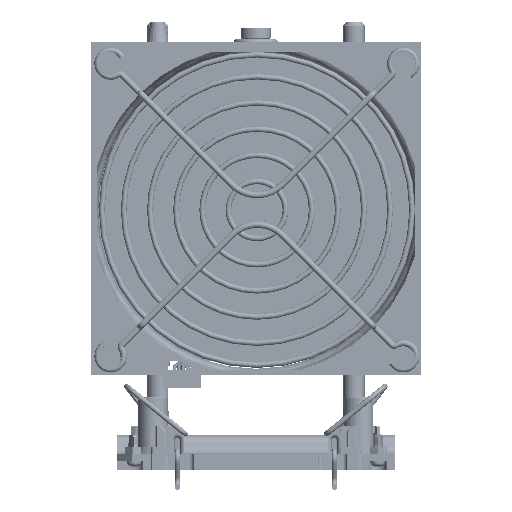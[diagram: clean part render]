
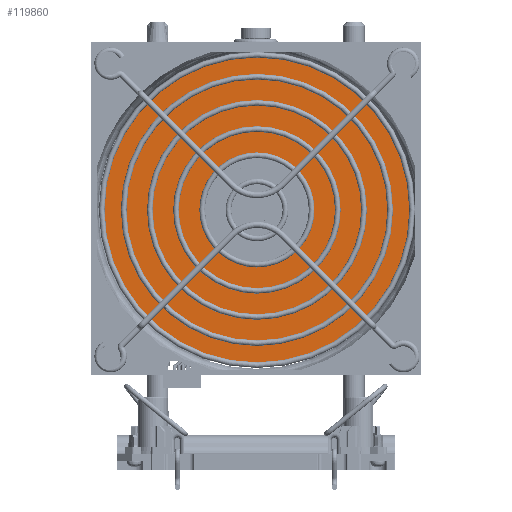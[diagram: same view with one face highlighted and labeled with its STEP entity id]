
A CAD part, front view. The second image highlights one B-rep face of the part: STEP entity #119860.
In plain terms, the highlighted planar face has unit normal (0, -1, 0) as drawn and (0, 0, 1) by its records, which use the part's own axes.
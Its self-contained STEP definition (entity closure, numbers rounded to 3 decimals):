
#119763=CARTESIAN_POINT('',(50.311,50.311,-1.9));
#119764=DIRECTION('',(0.,0.,1.));
#119765=DIRECTION('',(1.,0.,0.));
#119766=AXIS2_PLACEMENT_3D('',#119763,#119764,#119765);
#119768=CARTESIAN_POINT('',(50.311,50.311,-1.9));
#119769=DIRECTION('',(0.,0.,1.));
#119770=DIRECTION('',(-1.,0.,0.));
#119771=AXIS2_PLACEMENT_3D('',#119768,#119769,#119770);
#119773=CARTESIAN_POINT('',(93.561,50.311,-1.9));
#119774=CARTESIAN_POINT('',(7.061,50.311,-1.9));
#119775=VERTEX_POINT('',#119773);
#119776=VERTEX_POINT('',#119774);
#119851=CARTESIAN_POINT('',(50.311,50.311,-1.9));
#119852=DIRECTION('',(0.,0.,-1.));
#119853=DIRECTION('',(-1.,0.,0.));
#119854=AXIS2_PLACEMENT_3D('',#119851,#119852,#119853);
#119855=PLANE('',#119854);
#119856=ORIENTED_EDGE('',*,*,#119815,.F.);
#119857=ORIENTED_EDGE('',*,*,#119839,.F.);
#119858=EDGE_LOOP('',(#119856,#119857));
#119859=FACE_OUTER_BOUND('',#119858,.F.);
#119860=ADVANCED_FACE('',(#119859),#119855,.F.);
#119767=CIRCLE('',#119766,43.25);
#119772=CIRCLE('',#119771,43.25);
#119815=EDGE_CURVE('',#119775,#119776,#119767,.T.);
#119839=EDGE_CURVE('',#119776,#119775,#119772,.T.);
